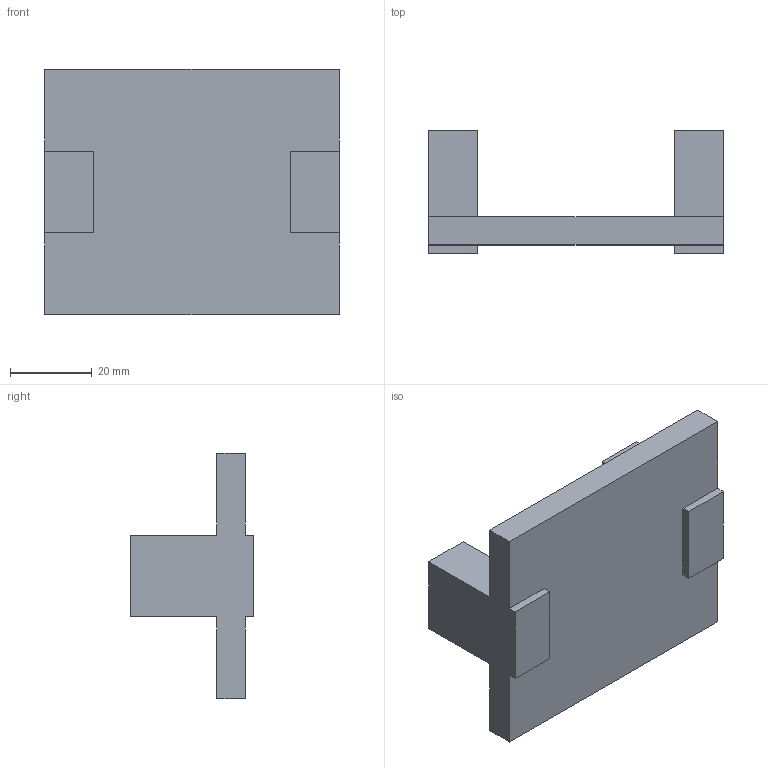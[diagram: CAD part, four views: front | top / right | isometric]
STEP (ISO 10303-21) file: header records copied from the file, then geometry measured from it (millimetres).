
FILE_DESCRIPTION( ( '' ), '1' );
FILE_NAME( 'C:/Documents and Settings/Sachin/Desktop/Sheet 10_1/stp/9113548.stp', '2013-10-22T12:47:42', ( '' ), ( '' ), ' ', ' ', ' ' );
FILE_SCHEMA( ( 'CONFIG_CONTROL_DESIGN' ) );
Length unit declared in the file: millimetre
Products named in the file (1): 1
Bounding box: 72 x 30 x 60 mm (x, y, z)
Volume: 40757.8 mm3; surface area: 13556.6 mm2
Topology: 1 solids, 1 shells, 28 faces, 72 edges, 48 vertices
Faces by surface type: plane 24, cylinder 4
Entity records: 888 total; most frequent: CARTESIAN_POINT 149, ORIENTED_EDGE 144, DIRECTION 138, EDGE_CURVE 72, LINE 64, VECTOR 64, VERTEX_POINT 48, AXIS2_PLACEMENT_3D 37
